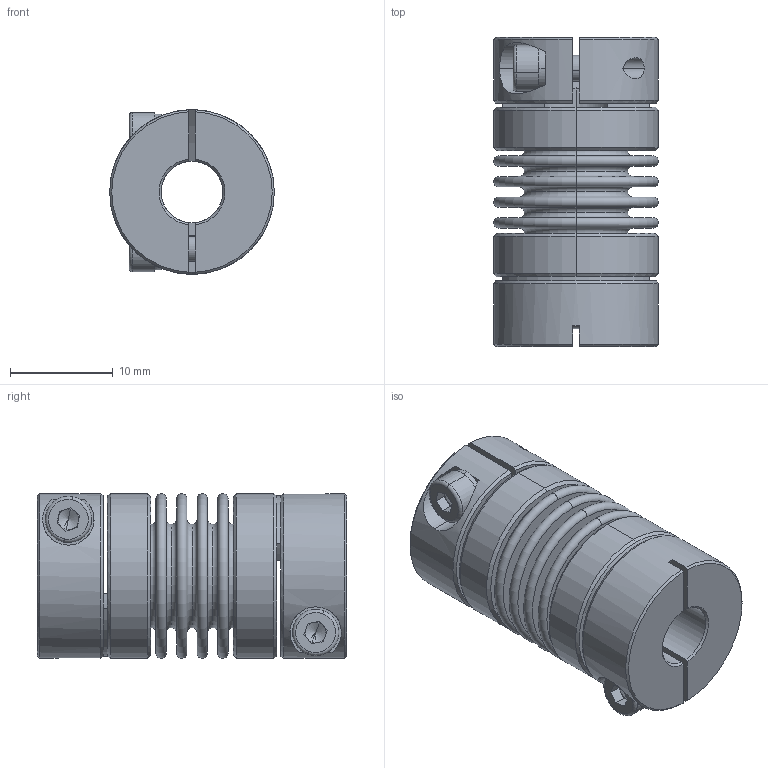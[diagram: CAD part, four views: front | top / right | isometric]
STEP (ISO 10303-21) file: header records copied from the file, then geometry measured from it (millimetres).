
FILE_DESCRIPTION (( 'STEP AP203' ), '1' );
FILE_NAME ('LB-B-D16L30-6-7.STEP', '2021-11-04T01:14:39', ( '' ), ( '' ), 'SwSTEP 2.0', 'SolidWorks 2018', '' );
FILE_SCHEMA (( 'CONFIG_CONTROL_DESIGN' ));
Length unit declared in the file: millimetre
Products named in the file (2): LB-B-D16L30-6-7; 零件1^LB-B-D16L30 波纹管联轴器-组装体
Assembly tree (1 placements, depth 2):
  LB-B-D16L30-6-7
    零件1^LB-B-D16L30 波纹管联轴器-组装体
Bounding box: 16 x 30.04 x 16 mm (x, y, z)
Volume: 3037.3 mm3; surface area: 6426.5 mm2
Topology: 1 solids, 1 shells, 254 faces, 586 edges, 362 vertices
Faces by surface type: plane 86, torus 68, cylinder 66, cone 34
Entity records: 7660 total; most frequent: CARTESIAN_POINT 1472, DIRECTION 1420, ORIENTED_EDGE 1164, AXIS2_PLACEMENT_3D 622, EDGE_CURVE 582, CIRCLE 364, VERTEX_POINT 362, EDGE_LOOP 296
